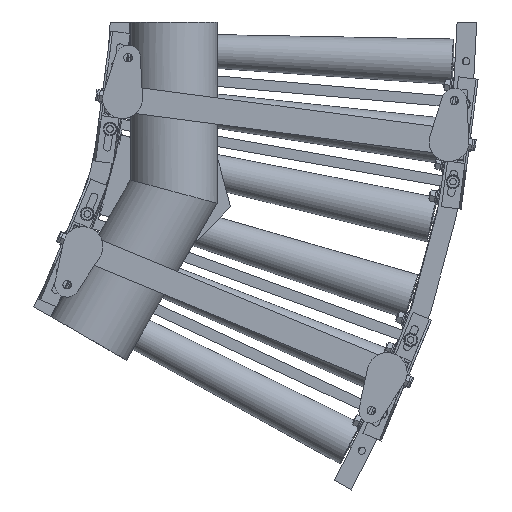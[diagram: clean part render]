
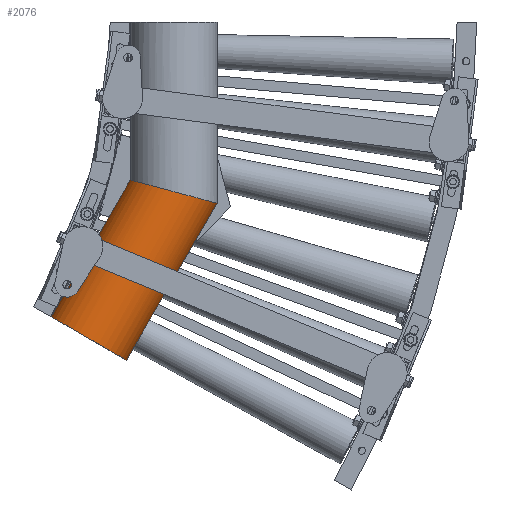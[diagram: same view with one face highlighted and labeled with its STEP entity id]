
A CAD part, front view. The second image highlights one B-rep face of the part: STEP entity #2076.
In plain terms, the highlighted cylindrical face has radius 67.024 mm (diameter 134.048 mm), a partial arc.
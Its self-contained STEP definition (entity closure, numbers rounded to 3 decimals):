
#2076=ADVANCED_FACE('',(#13291),#13290,.T.);
#13290=CYLINDRICAL_SURFACE('',#30729,67.024);
#13291=FACE_OUTER_BOUND('',#30730,.T.);
#30726=CARTESIAN_POINT('',(975.883,-156.676,-243.722));
#30727=DIRECTION('',(0.5,0.,0.866));
#30728=DIRECTION('',(0.866,0.,-0.5));
#30729=AXIS2_PLACEMENT_3D('',#30726,#30727,#30728);
#30730=EDGE_LOOP('',(#41522,#41523,#41524,#41525));
#41522=ORIENTED_EDGE('',*,*,#49828,.T.);
#41523=ORIENTED_EDGE('',*,*,#49829,.T.);
#41524=ORIENTED_EDGE('',*,*,#49830,.T.);
#41525=ORIENTED_EDGE('',*,*,#49823,.F.);
#49823=EDGE_CURVE('',#67786,#67793,#67794,.T.);
#49828=EDGE_CURVE('',#67786,#67826,#67827,.T.);
#49829=EDGE_CURVE('',#67826,#67833,#67834,.T.);
#49830=EDGE_CURVE('',#67833,#67793,#67840,.T.);
#67786=VERTEX_POINT('',#98494);
#67793=VERTEX_POINT('',#98498);
#67794=LINE('',#98499,#98500);
#67826=VERTEX_POINT('',#98516);
#67827=(BOUNDED_CURVE() B_SPLINE_CURVE(2,(#98517,#98518,#98519,#98520,#98521),.UNSPECIFIED.,.F.,.F.) B_SPLINE_CURVE_WITH_KNOTS((3,2,3),(0.147,1.571,2.994),.UNSPECIFIED.) CURVE() GEOMETRIC_REPRESENTATION_ITEM() RATIONAL_B_SPLINE_CURVE((1.,0.757,1.,0.757,1.)) REPRESENTATION_ITEM('') );
#67833=VERTEX_POINT('',#98522);
#67834=LINE('',#98523,#98524);
#67840=CIRCLE('',#98529,67.024);
#98494=CARTESIAN_POINT('',(1033.3,-166.5,-276.872));
#98498=CARTESIAN_POINT('',(894.864,-166.5,-516.65));
#98499=CARTESIAN_POINT('',(1033.3,-166.5,-276.872));
#98500=VECTOR('',#98501,276.872);
#98501=DIRECTION('',(-0.5,0.,-0.866));
#98516=CARTESIAN_POINT('',(900.7,-166.5,-241.342));
#98517=CARTESIAN_POINT('',(1033.3,-166.5,-276.872));
#98518=CARTESIAN_POINT('',(1024.825,-223.7,-274.601));
#98519=CARTESIAN_POINT('',(967.,-223.7,-259.107));
#98520=CARTESIAN_POINT('',(909.175,-223.7,-243.613));
#98521=CARTESIAN_POINT('',(900.7,-166.5,-241.342));
#98522=CARTESIAN_POINT('',(780.029,-166.5,-450.35));
#98523=CARTESIAN_POINT('',(900.7,-166.5,-241.342));
#98524=VECTOR('',#98525,241.342);
#98525=DIRECTION('',(-0.5,0.,-0.866));
#98526=CARTESIAN_POINT('',(837.447,-156.676,-483.5));
#98527=DIRECTION('',(0.5,0.,0.866));
#98528=DIRECTION('',(-0.866,0.,0.5));
#98529=AXIS2_PLACEMENT_3D('',#98526,#98527,#98528);
